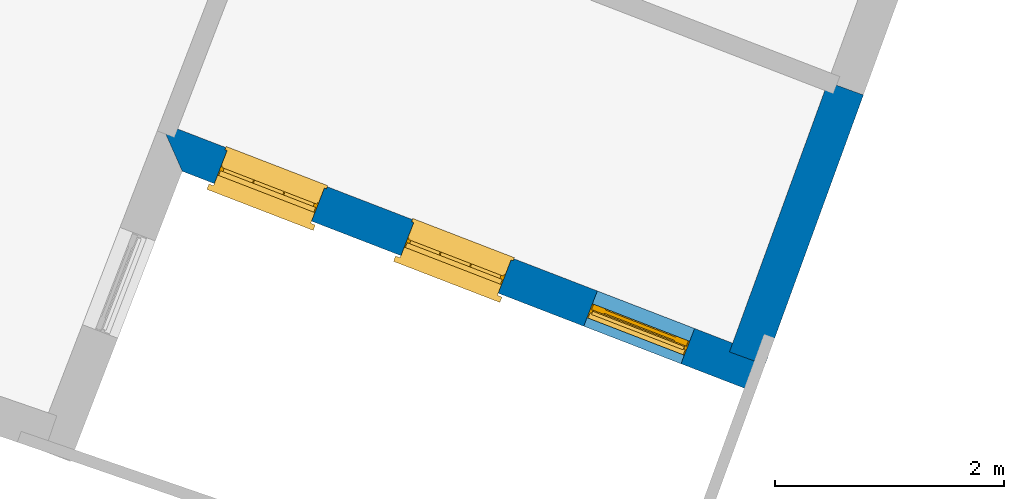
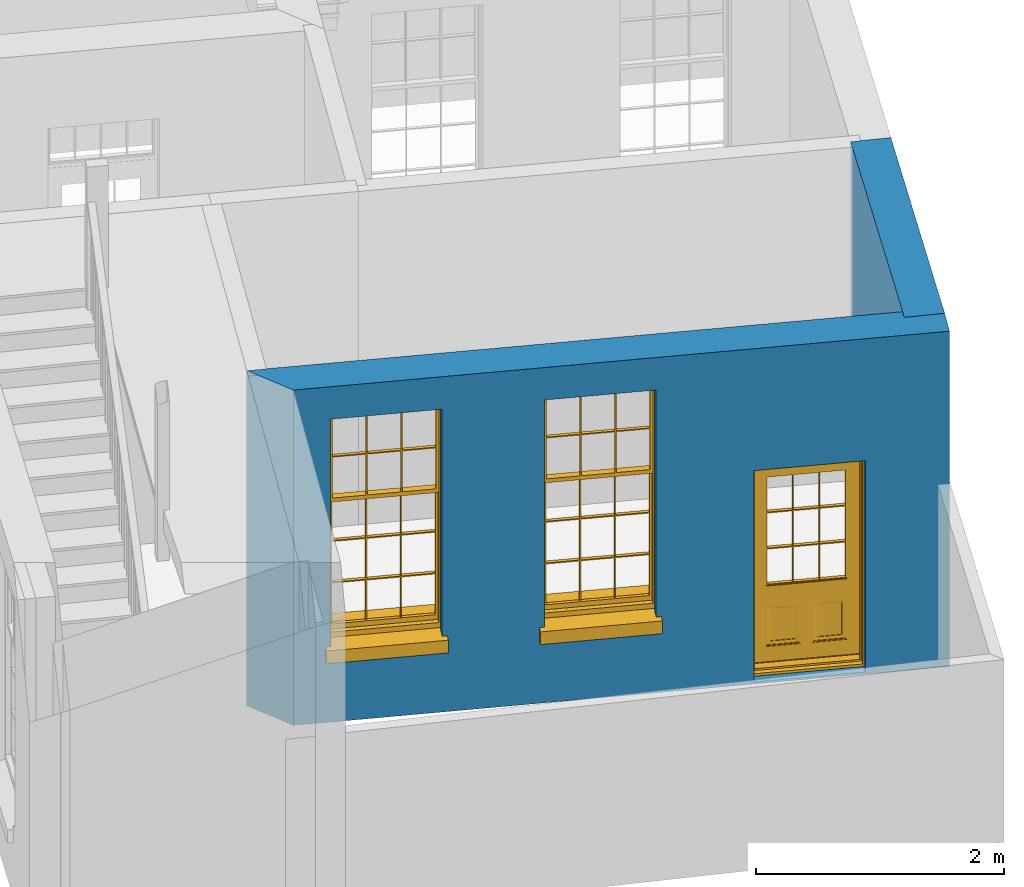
# One storey, part 2 of 6: 2 walls, 2 windows, 1 door, 3 openings.
"""IFC4 building model written with IfcOpenShell, lengths in metres."""

from ifc_helpers import new_model, si_unit, frame, origin, origin_with_axes, place, context, subcontext, project, spatial, polyline, outline, extrude, faceted_brep, source, transform, mapped, material, layer, layer_set, layer_usage, type_object, type_shapes, element, fill, save


model = new_model("IFC4")

# Units and contexts
model_context = context("Model", 3, world=origin_with_axes())
body_context = subcontext(model_context, "Body", "Model", "MODEL_VIEW")
ifc_project = project(units=[si_unit("PLANEANGLEUNIT", "RADIAN"), si_unit("MASSUNIT", "GRAM", prefix="KILO"), si_unit("FORCEUNIT", "NEWTON", prefix="KILO"), si_unit("LENGTHUNIT", "METRE"), si_unit("AREAUNIT", "SQUARE_METRE"), si_unit("VOLUMEUNIT", "CUBIC_METRE")], contexts=[model_context, model_context])

# Sites, building, storey
site_1_placement = place(None, origin_with_axes())
site_1 = spatial("IfcSite", under=ifc_project, at=site_1_placement, Name="Tamar")
site_2_placement = place(site_1_placement, origin_with_axes())
site_2 = spatial("IfcSite", under=site_1, at=site_2_placement, Name="Site plot-11", CompositionType="ELEMENT")
building_placement = place(None, origin_with_axes())
building = spatial("IfcBuilding", under=site_2, at=building_placement, Name="Building plot-11", CompositionType="ELEMENT")
storey_placement = place(None, frame((0.0, 0.0, 26.8), z_axis=(0.0, 0.0, 1.0), x_axis=(1.0, 0.0, 0.0)))
storey = spatial("IfcBuildingStorey", under=building, at=storey_placement, Name="plot-11 0", CompositionType="ELEMENT", Elevation=26.8)

# Wall, openings, windows, door
ifc_material_1 = material(Name="Masonry")
ifc_layer_1 = layer(ifc_material_1, 0.33, ventilated=False)
ifc_layer_set_1 = layer_set([ifc_layer_1], Name="exterior_0.08_0.25")
ifc_layer_usage_1 = layer_usage(ifc_layer_set_1, "AXIS2", "POSITIVE", -0.25)
wall_type_1 = type_object("IfcWallType", Name="exterior_0.08_0.25", PredefinedType="SOLIDWALL", material=ifc_layer_set_1)
wall_1_placement = place(storey_placement, frame((241.432402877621, 311.902585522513, 0.0), z_axis=(0.0, 0.0, 1.0), x_axis=(0.932925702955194, -0.36006892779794, 0.0)))
wall_1 = element("IfcWall", 1, at=wall_1_placement, inside=storey, type_object=wall_type_1, material=ifc_layer_usage_1, Name="exterior", context=body_context, shape_type="SweptSolid", body=[
    extrude(outline(polyline([(-0.0800000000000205, 0.0799999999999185), (0.249999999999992, -0.250000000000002), (5.60336772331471, -0.249999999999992), (5.60336772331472, 0.0799999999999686), (-0.0800000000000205, 0.0799999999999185)])), origin_with_axes(), (0.0, 0.0, 1.0), 3.3),
])
opening_1_placement = place(wall_1_placement, frame((0.549999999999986, 0.0, 0.75)))
opening_1 = element("IfcOpeningElement", 2, at=opening_1_placement, cuts=wall_1, Name="My Opening", ObjectType="Opening", context=body_context, shape_type="SweptSolid", body=[
    extrude(outline(polyline([(0.0, -0.269999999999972), (0.910000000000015, -0.269999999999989), (0.910000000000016, 1.09999999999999), (9.99200722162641e-16, 1.10000000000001), (0.0, -0.269999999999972)])), origin_with_axes(), (0.0, 0.0, 1.0), 2.23),
])
opening_2_placement = place(wall_1_placement, frame((2.2961397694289, 0.0, 0.75)))
opening_2 = element("IfcOpeningElement", 3, at=opening_2_placement, cuts=wall_1, Name="My Opening", ObjectType="Opening", context=body_context, shape_type="SweptSolid", body=[
    extrude(outline(polyline([(0.0, -0.26999999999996), (0.909999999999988, -0.269999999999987), (0.909999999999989, 1.09999999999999), (8.88178419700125e-16, 1.10000000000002), (0.0, -0.26999999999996)])), origin_with_axes(), (0.0, 0.0, 1.0), 2.23),
])
opening_3_placement = place(wall_1_placement, frame((4.0061397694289, 0.0, 0.0199999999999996)))
opening_3 = element("IfcOpeningElement", 4, at=opening_3_placement, cuts=wall_1, Name="My Opening", ObjectType="Opening", context=body_context, shape_type="SweptSolid", body=[
    extrude(outline(polyline([(0.0, -0.269999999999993), (0.909999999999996, -0.269999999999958), (0.909999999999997, 1.10000000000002), (1.77635683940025e-15, 1.09999999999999), (0.0, -0.269999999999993)])), origin_with_axes(), (0.0, 0.0, 1.0), 2.08),
])
window_type = type_object("IfcWindowType", Name="sash_big_taller", PartitioningType="DOUBLE_PANEL_HORIZONTAL", PredefinedType="NOTDEFINED")
shared_shape_1 = source(origin(), body_context, "Body", "Brep", [
    faceted_brep([(0.033125, 0.145, 1.385209), (0.01, 0.145, 1.385209), (0.033125, 0.145, 1.786042), (0.876875, 0.145, 1.385209), (0.876875, 0.145, 1.786042), (0.9, 0.145, 1.385209), (0.876875, 0.145, 1.796042), (0.876875, 0.145, 2.196875), (0.9, 0.145, 2.22), (0.033125, 0.145, 2.196875), (0.033125, 0.145, 1.796042), (0.01, 0.145, 2.22), (0.876875, 0.115, 1.786042), (0.876875, 0.115, 1.385209), (0.9, 0.115, 1.347084), (0.033125, 0.115, 2.196875), (0.01, 0.115, 2.22), (0.033125, 0.115, 1.796042), (0.01, 0.115, 1.347084), (0.033125, 0.115, 1.385209), (0.033125, 0.115, 1.786042), (0.876875, 0.115, 2.196875), (0.876875, 0.115, 1.796042), (0.9, 0.115, 2.22), (0.033125, 0.145, 1.347084), (0.01, 0.145, 1.347084), (0.033125, 0.145, 0.94625), (0.876875, 0.145, 1.347084), (0.876875, 0.145, 0.94625), (0.9, 0.145, 1.347084), (0.876875, 0.145, 0.52625), (0.876875, 0.145, 0.125417), (0.9, 0.145, 0.077167), (0.033125, 0.145, 0.125417), (0.033125, 0.145, 0.52625), (0.01, 0.145, 0.077167), (-0.0425, 0.0, 0.01), (-0.0425, -0.05, 0.001667), (0.0, 0.0, 0.01), (0.9525, 0.0, 0.01), (0.91, 0.0, 0.01), (0.9525, -0.05, 0.001667), (-0.02, 0.33, 0.077167), (0.0, 0.33, 0.077167), (-0.02, 0.36, 0.077167), (0.0, 0.19, 0.077167), (0.01, 0.19, 0.077167), (0.91, 0.19, 0.077167), (0.91, 0.33, 0.077167), (0.9, 0.19, 0.077167), (0.93, 0.33, 0.077167), (0.93, 0.36, 0.077167), (0.01, 0.175, 1.385209), (0.9, 0.175, 1.385209), (0.876875, 0.175, 0.125417), (0.876875, 0.175, 0.52625), (0.9, 0.175, 0.077167), (0.876875, 0.175, 0.94625), (0.876875, 0.175, 1.347084), (0.033125, 0.175, 0.125417), (0.01, 0.175, 0.077167), (0.033125, 0.175, 0.52625), (0.033125, 0.175, 1.347084), (0.033125, 0.175, 0.94625), (-0.02, 0.33, 0.052167), (-0.02, 0.36, 0.052167), (0.93, 0.36, 0.052167), (0.93, 0.33, 0.052167), (0.91, 0.33, 0.052167), (0.0, 0.33, 0.052167), (0.91, 0.1, 0.026667), (0.0, 0.1, 0.026667), (-0.0425, -0.05, -0.123333), (0.9525, -0.05, -0.123333), (-0.0425, 0.0, -0.123333), (0.9525, 0.0, -0.123333), (0.01, 0.19, 2.22), (0.9, 0.19, 2.22), (0.0, 0.19, 2.23), (0.91, 0.19, 2.23), (0.01, 0.1, 0.077167), (0.9, 0.1, 0.077167), (0.592292, 0.145, 0.125417), (0.592292, 0.175, 0.125417), (0.317708, 0.175, 0.125417), (0.317708, 0.145, 0.125417), (0.592292, 0.145, 0.53625), (0.317708, 0.145, 0.53625), (0.317708, 0.145, 0.52625), (0.592292, 0.145, 0.52625), (0.592292, 0.175, 0.53625), (0.317708, 0.175, 0.53625), (0.592292, 0.115, 1.796042), (0.592292, 0.145, 1.796042), (0.317708, 0.145, 1.796042), (0.317708, 0.115, 1.796042), (0.317708, 0.115, 1.786042), (0.592292, 0.115, 1.786042), (0.317708, 0.145, 1.786042), (0.592292, 0.145, 1.786042), (0.602292, 0.115, 1.786042), (0.592292, 0.115, 1.385209), (0.602292, 0.115, 1.385209), (0.602292, 0.145, 1.385209), (0.592292, 0.145, 1.385209), (0.602292, 0.145, 1.786042), (0.876875, 0.145, 0.53625), (0.876875, 0.175, 0.53625), (0.602292, 0.175, 0.53625), (0.602292, 0.145, 0.53625), (0.317708, 0.175, 0.52625), (0.307708, 0.175, 0.125417), (0.307708, 0.175, 0.52625), (0.602292, 0.175, 0.52625), (0.602292, 0.175, 0.125417), (0.592292, 0.175, 0.52625), (0.307708, 0.175, 0.53625), (0.033125, 0.175, 0.53625), (0.317708, 0.175, 1.347084), (0.317708, 0.175, 0.94625), (0.307708, 0.175, 0.94625), (0.307708, 0.175, 1.347084), (0.602292, 0.175, 1.347084), (0.602292, 0.175, 0.94625), (0.592292, 0.175, 0.94625), (0.592292, 0.175, 1.347084), (0.307708, 0.145, 0.52625), (0.307708, 0.145, 0.125417), (0.307708, 0.145, 0.53625), (0.033125, 0.145, 0.53625), (0.307708, 0.145, 1.347084), (0.307708, 0.145, 0.94625), (0.592292, 0.145, 1.347084), (0.592292, 0.145, 0.94625), (0.317708, 0.145, 0.94625), (0.317708, 0.145, 1.347084), (0.602292, 0.145, 0.94625), (0.602292, 0.145, 1.347084), (0.602292, 0.145, 0.52625), (0.602292, 0.145, 0.125417), (0.307708, 0.115, 1.796042), (0.307708, 0.115, 1.786042), (0.307708, 0.115, 1.385209), (0.317708, 0.115, 1.385209), (0.317708, 0.115, 2.196875), (0.307708, 0.115, 2.196875), (0.602292, 0.115, 2.196875), (0.592292, 0.115, 2.196875), (0.602292, 0.115, 1.796042), (0.602292, 0.145, 1.796042), (0.307708, 0.145, 1.796042), (0.307708, 0.145, 2.196875), (0.317708, 0.145, 2.196875), (0.592292, 0.145, 2.196875), (0.602292, 0.145, 2.196875), (0.307708, 0.145, 1.786042), (0.317708, 0.145, 1.385209), (0.307708, 0.145, 1.385209), (0.876875, 0.175, 0.93625), (0.033125, 0.175, 0.93625), (0.033125, 0.145, 0.93625), (0.876875, 0.145, 0.93625), (0.91, 0.1, 2.23), (0.9, 0.1, 2.22), (0.01, 0.1, 2.22), (0.0, 0.1, 2.23), (0.91, 0.0, 0.0), (0.0, 0.0, 0.0), (0.91, 0.33, 0.0), (0.0, 0.33, 0.0), (0.317708, 0.145, 0.93625), (0.592292, 0.145, 0.93625), (0.317708, 0.175, 0.93625), (0.307708, 0.175, 0.93625), (0.602292, 0.175, 0.93625), (0.592292, 0.175, 0.93625), (0.307708, 0.145, 0.93625), (0.602292, 0.145, 0.93625)], [[[0, 1, 2]], [[3, 4, 5]], [[6, 7, 8]], [[9, 10, 11]], [[12, 13, 14]], [[15, 16, 17]], [[18, 19, 20]], [[21, 22, 23]], [[24, 25, 26]], [[27, 28, 29]], [[30, 31, 32]], [[33, 34, 35]], [[14, 27, 29]], [[25, 24, 18]], [[36, 37, 38]], [[39, 40, 41]], [[42, 43, 44]], [[45, 46, 43]], [[47, 48, 49]], [[50, 51, 48]], [[1, 0, 52]], [[5, 53, 3]], [[54, 55, 56]], [[57, 58, 53]], [[59, 60, 61]], [[62, 63, 52]], [[48, 43, 46, 49]], [[51, 44, 43, 48]], [[64, 42, 44, 65]], [[65, 44, 51, 66]], [[66, 51, 50, 67]], [[65, 66, 68, 69]], [[60, 56, 49, 46]], [[70, 71, 38, 40]], [[37, 41, 40, 38]], [[37, 72, 73, 41]], [[74, 75, 73, 72]], [[8, 11, 76, 77]], [[76, 78, 79, 77]], [[32, 35, 80, 81]], [[81, 80, 71, 70]], [[82, 83, 84, 85]], [[86, 87, 88, 89]], [[86, 90, 91, 87]], [[92, 93, 94, 95]], [[92, 95, 96, 97]], [[96, 98, 99, 97]], [[100, 97, 101, 102]], [[103, 104, 99, 105]], [[97, 99, 104, 101]], [[102, 103, 105, 100]], [[106, 107, 108, 109]], [[110, 84, 111, 112]], [[113, 114, 83, 115]], [[116, 112, 61, 117]], [[90, 115, 110, 91]], [[118, 119, 120, 121]], [[122, 123, 124, 125]], [[113, 108, 107, 55]], [[126, 112, 111, 127]], [[34, 61, 112, 126]], [[89, 115, 83, 82]], [[88, 110, 115, 89]], [[85, 84, 110, 88]], [[128, 116, 117, 129]], [[130, 121, 120, 131]], [[132, 125, 124, 133]], [[134, 119, 118, 135]], [[136, 123, 122, 137]], [[138, 113, 55, 30]], [[139, 114, 113, 138]], [[138, 30, 106, 109]], [[88, 126, 127, 85]], [[138, 89, 82, 139]], [[137, 132, 133, 136]], [[128, 129, 34, 126]], [[135, 130, 131, 134]], [[140, 17, 20, 141]], [[96, 141, 142, 143]], [[144, 145, 140, 95]], [[146, 147, 92, 148]], [[100, 12, 22, 148]], [[149, 6, 4, 105]], [[94, 150, 151, 152]], [[149, 93, 153, 154]], [[99, 98, 94, 93]], [[155, 2, 10, 150]], [[156, 157, 155, 98]], [[141, 155, 157, 142]], [[20, 2, 155, 141]], [[143, 156, 98, 96]], [[140, 150, 10, 17]], [[145, 151, 150, 140]], [[147, 153, 93, 92]], [[95, 94, 152, 144]], [[22, 6, 149, 148]], [[148, 149, 154, 146]], [[100, 105, 4, 12]], [[109, 86, 89, 138]], [[108, 113, 115, 90]], [[91, 110, 112, 116]], [[87, 128, 126, 88]], [[97, 100, 148, 92]], [[141, 96, 95, 140]], [[98, 155, 150, 94]], [[105, 99, 93, 149]], [[143, 101, 104, 156]], [[135, 118, 125, 132]], [[144, 152, 153, 147]], [[127, 111, 59, 33]], [[15, 9, 151, 145]], [[146, 154, 7, 21]], [[31, 54, 114, 139]], [[36, 74, 72, 37]], [[39, 41, 73, 75]], [[18, 14, 101, 143]], [[23, 16, 144, 147]], [[83, 56, 60, 84]], [[52, 53, 125, 118]], [[53, 52, 156, 104]], [[11, 8, 153, 152]], [[14, 18, 135, 132]], [[2, 1, 11, 10]], [[8, 5, 4, 6]], [[57, 53, 56, 158]], [[60, 52, 63, 159]], [[26, 25, 35, 160]], [[32, 29, 28, 161]], [[14, 23, 22, 12]], [[18, 20, 17, 16]], [[19, 0, 2, 20]], [[17, 10, 9, 15]], [[12, 4, 3, 13]], [[21, 7, 6, 22]], [[27, 58, 57, 28]], [[30, 55, 54, 31]], [[33, 59, 61, 34]], [[26, 63, 62, 24]], [[5, 8, 77, 53]], [[76, 11, 1, 52]], [[46, 45, 78, 76]], [[49, 77, 79, 47]], [[70, 162, 163, 81]], [[71, 80, 164, 165]], [[19, 142, 157, 0]], [[102, 13, 3, 103]], [[121, 130, 24, 62]], [[29, 32, 81, 14]], [[80, 35, 25, 18]], [[60, 46, 76, 52]], [[77, 49, 56, 53]], [[23, 14, 81, 163]], [[16, 164, 80, 18]], [[35, 85, 127]], [[127, 33, 35]], [[139, 82, 32]], [[32, 31, 139]], [[32, 82, 85, 35]], [[102, 101, 14]], [[14, 13, 102]], [[18, 143, 142]], [[142, 19, 18]], [[146, 21, 23]], [[23, 147, 146]], [[16, 15, 145]], [[145, 144, 16]], [[11, 152, 151]], [[151, 9, 11]], [[154, 153, 8]], [[8, 7, 154]], [[23, 163, 164, 16]], [[162, 165, 164, 163]], [[52, 118, 121]], [[121, 62, 52]], [[125, 53, 122]], [[58, 122, 53]], [[27, 137, 122, 58]], [[56, 83, 114]], [[114, 54, 56]], [[111, 84, 60]], [[60, 59, 111]], [[137, 27, 14]], [[14, 132, 137]], [[130, 135, 18]], [[18, 24, 130]], [[157, 156, 52]], [[52, 0, 157]], [[103, 3, 53]], [[53, 104, 103]], [[79, 78, 165, 162]], [[78, 45, 71, 165]], [[162, 70, 47, 79]], [[166, 75, 74, 167]], [[68, 66, 67]], [[48, 68, 67, 50]], [[69, 64, 65]], [[42, 64, 69, 43]], [[69, 68, 168, 169]], [[70, 68, 48, 47]], [[166, 168, 68, 70]], [[43, 69, 71, 45]], [[69, 169, 167, 71]], [[168, 166, 167, 169]], [[38, 167, 74, 36]], [[71, 167, 38]], [[39, 75, 166, 40]], [[40, 166, 70]], [[133, 134, 170, 171]], [[133, 124, 119, 134]], [[28, 57, 123, 136]], [[172, 91, 116, 173]], [[174, 108, 90, 175]], [[120, 173, 159, 63]], [[124, 175, 172, 119]], [[174, 123, 57, 158]], [[176, 173, 116, 128]], [[160, 159, 173, 176]], [[171, 175, 90, 86]], [[170, 172, 175, 171]], [[87, 91, 172, 170]], [[131, 120, 63, 26]], [[177, 174, 158, 161]], [[109, 108, 174, 177]], [[177, 161, 28, 136]], [[170, 176, 128, 87]], [[177, 171, 86, 109]], [[131, 26, 160, 176]], [[136, 133, 171, 177]], [[123, 174, 175, 124]], [[119, 172, 173, 120]], [[134, 131, 176, 170]], [[129, 117, 159, 160]], [[161, 158, 107, 106]], [[35, 34, 129]], [[35, 129, 160]], [[32, 106, 30]], [[32, 161, 106]], [[56, 55, 107]], [[56, 107, 158]], [[60, 117, 61]], [[60, 159, 117]]]),
])
type_shapes(window_type, [shared_shape_1])
window_1_placement = place(storey_placement, frame((241.848293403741, 311.452657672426, 0.75), z_axis=(0.0, 0.0, 1.0), x_axis=(0.848962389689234, -0.327662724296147, 0.0)))
window_1 = element("IfcWindow", 5, at=window_1_placement, inside=storey, type_object=window_type, Name="bedroom outside window", OverallHeight=2.23, OverallWidth=0.91, context=body_context, shape_type="MappedRepresentation", body=[
    mapped(shared_shape_1, transform((0.0, 0.0, 0.0), scale=1.0)),
])
fill(opening_1, window_1)
window_2_placement = place(storey_placement, frame((243.477312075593, 310.823926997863, 0.75), z_axis=(0.0, 0.0, 1.0), x_axis=(0.848962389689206, -0.327662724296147, 0.0)))
window_2 = element("IfcWindow", 6, at=window_2_placement, inside=storey, type_object=window_type, Name="bedroom outside window", OverallHeight=2.23, OverallWidth=0.91, context=body_context, shape_type="MappedRepresentation", body=[
    mapped(shared_shape_1, transform((0.0, 0.0, 0.0), scale=1.0)),
])
fill(opening_2, window_2)
door_type = type_object("IfcDoorType", Name="door_panelled", OperationType="SINGLE_SWING_LEFT", PredefinedType="NOTDEFINED")
shared_shape_2 = source(origin(), body_context, "Body", "Brep", [
    faceted_brep([(0.545, 0.195, 0.265), (0.745, 0.195, 0.265), (0.745, 0.2, 0.265), (0.545, 0.2, 0.265), (0.745, 0.2, 0.58), (0.545, 0.2, 0.58), (0.545, 0.195, 0.58), (0.515, 0.19, 0.235), (0.775, 0.19, 0.235), (0.745, 0.195, 0.58), (0.515, 0.19, 0.61), (0.515, 0.185, 0.235), (0.775, 0.185, 0.235), (0.775, 0.19, 0.61), (0.515, 0.185, 0.61), (0.785, 0.185, 0.225), (0.505, 0.185, 0.225), (0.775, 0.185, 0.61), (0.505, 0.185, 0.62), (0.785, 0.185, 0.62), (0.505, 0.18, 0.225), (0.785, 0.18, 0.225), (0.505, 0.18, 0.62), (0.785, 0.18, 0.62), (0.883, 0.18, 0.075), (0.898, 0.18, 0.075), (0.405, 0.18, 0.62), (0.405, 0.18, 0.225), (0.027, 0.18, 0.075), (0.785, 0.18, 0.82), (0.125, 0.18, 0.82), (0.405, 0.185, 0.62), (0.405, 0.185, 0.225), (0.898, 0.18, 2.068), (0.027, 0.17, 0.075), (0.883, 0.17, 0.075), (0.125, 0.18, 0.225), (0.012, 0.18, 0.075), (0.785, 0.19, 0.82), (0.125, 0.19, 0.82), (0.125, 0.18, 0.62), (0.125, 0.185, 0.62), (0.395, 0.185, 0.61), (0.395, 0.185, 0.235), (0.125, 0.185, 0.225), (0.785, 0.18, 1.895), (0.027, 0.14, 0.045), (0.883, 0.14, 0.045), (0.558333, 0.19, 0.83), (0.351667, 0.19, 0.83), (0.125, 0.18, 1.895), (0.125, 0.19, 1.895), (0.785, 0.19, 1.895), (0.012, 0.18, 2.068), (0.135, 0.185, 0.61), (0.395, 0.19, 0.61), (0.395, 0.19, 0.235), (0.135, 0.185, 0.235), (0.027, 0.14, 0.027), (0.883, 0.14, 0.027), (0.568333, 0.19, 0.83), (0.558333, 0.22, 0.83), (0.351667, 0.22, 0.83), (0.341667, 0.19, 0.83), (0.135, 0.19, 1.185), (0.135, 0.19, 1.53), (0.775, 0.19, 1.53), (0.775, 0.19, 1.185), (0.135, 0.19, 0.61), (0.365, 0.195, 0.58), (0.365, 0.195, 0.265), (0.135, 0.19, 0.235), (0.568333, 0.19, 1.175), (0.558333, 0.19, 1.175), (0.775, 0.19, 0.83), (0.558333, 0.22, 1.175), (0.785, 0.22, 0.82), (0.125, 0.22, 0.82), (0.351667, 0.22, 1.175), (0.351667, 0.19, 1.175), (0.341667, 0.19, 1.175), (0.135, 0.19, 0.83), (0.135, 0.19, 1.175), (0.135, 0.22, 1.185), (0.135, 0.22, 1.53), (0.135, 0.19, 1.54), (0.351667, 0.19, 1.885), (0.558333, 0.19, 1.885), (0.775, 0.22, 1.53), (0.775, 0.22, 1.185), (0.775, 0.19, 1.175), (0.775, 0.19, 1.54), (0.165, 0.195, 0.58), (0.365, 0.2, 0.58), (0.365, 0.2, 0.265), (0.165, 0.195, 0.265), (0.568333, 0.22, 0.83), (0.568333, 0.22, 1.175), (0.568333, 0.19, 1.185), (0.558333, 0.19, 1.185), (0.775, 0.22, 0.83), (0.785, 0.23, 0.82), (0.125, 0.23, 0.82), (0.341667, 0.22, 0.83), (0.341667, 0.22, 1.175), (0.351667, 0.19, 1.185), (0.341667, 0.19, 1.185), (0.135, 0.22, 0.83), (0.341667, 0.22, 1.185), (0.125, 0.22, 1.895), (0.341667, 0.22, 1.53), (0.341667, 0.19, 1.53), (0.135, 0.19, 1.885), (0.341667, 0.19, 1.54), (0.341667, 0.19, 1.885), (0.558333, 0.22, 1.885), (0.351667, 0.22, 1.885), (0.568333, 0.19, 1.885), (0.785, 0.22, 1.895), (0.568333, 0.22, 1.185), (0.568333, 0.19, 1.53), (0.568333, 0.22, 1.53), (0.568333, 0.19, 1.54), (0.775, 0.19, 1.885), (0.165, 0.2, 0.58), (0.165, 0.2, 0.265), (0.775, 0.22, 1.175), (0.558333, 0.19, 1.53), (0.351667, 0.22, 1.185), (0.558333, 0.22, 1.185), (0.505, 0.23, 0.62), (0.405, 0.23, 0.62), (0.125, 0.23, 1.895), (0.785, 0.23, 1.895), (0.351667, 0.19, 1.53), (0.135, 0.22, 1.175), (0.135, 0.22, 1.54), (0.341667, 0.22, 1.54), (0.135, 0.22, 1.885), (0.351667, 0.19, 1.54), (0.558333, 0.22, 1.54), (0.558333, 0.19, 1.54), (0.351667, 0.22, 1.54), (0.775, 0.22, 1.54), (0.568333, 0.22, 1.54), (0.775, 0.22, 1.885), (0.558333, 0.22, 1.53), (0.405, 0.23, 0.225), (0.505, 0.23, 0.225), (0.125, 0.23, 0.62), (0.785, 0.23, 0.62), (0.012, 0.23, 2.068), (0.898, 0.23, 2.068), (0.351667, 0.22, 1.53), (0.341667, 0.22, 1.885), (0.568333, 0.22, 1.885), (0.405, 0.225, 0.225), (0.405, 0.225, 0.62), (0.505, 0.225, 0.62), (0.505, 0.225, 0.225), (0.898, 0.23, 0.027), (0.012, 0.23, 0.027), (0.125, 0.225, 0.62), (0.785, 0.225, 0.62), (0.395, 0.225, 0.235), (0.395, 0.225, 0.61), (0.125, 0.23, 0.225), (0.125, 0.225, 0.225), (0.515, 0.225, 0.61), (0.515, 0.225, 0.235), (0.785, 0.23, 0.225), (0.785, 0.225, 0.225), (0.135, 0.225, 0.61), (0.775, 0.225, 0.61), (0.135, 0.225, 0.235), (0.395, 0.22, 0.235), (0.395, 0.22, 0.61), (0.515, 0.22, 0.61), (0.515, 0.22, 0.235), (0.775, 0.225, 0.235), (0.135, 0.22, 0.61), (0.775, 0.22, 0.61), (0.135, 0.22, 0.235), (0.365, 0.215, 0.265), (0.365, 0.215, 0.58), (0.545, 0.215, 0.58), (0.545, 0.215, 0.265), (0.775, 0.22, 0.235), (0.165, 0.215, 0.58), (0.745, 0.215, 0.58), (0.165, 0.215, 0.265), (0.365, 0.21, 0.58), (0.365, 0.21, 0.265), (0.545, 0.21, 0.58), (0.545, 0.21, 0.265), (0.745, 0.215, 0.265), (0.165, 0.21, 0.58), (0.745, 0.21, 0.58), (0.165, 0.21, 0.265), (0.745, 0.21, 0.265), (0.885, 0.178, 0.025), (0.025, 0.178, 0.025), (0.025, 0.15, 0.025), (0.885, 0.15, 0.025), (0.9, 0.23, 0.025), (0.01, 0.23, 0.025), (0.9, 0.178, 0.025), (0.91, 0.23, 0.0), (0.0, 0.23, 0.0), (0.01, 0.178, 0.025), (0.9, 0.178, 2.07), (0.9, 0.23, 2.07), (0.885, 0.178, 2.055), (0.91, 0.23, 2.08), (0.01, 0.23, 2.07), (0.0, 0.23, 2.08), (0.01, 0.178, 2.07), (0.025, 0.178, 2.055), (0.0, 0.1, 2.08), (0.91, 0.1, 2.08), (0.01, 0.1, 2.07), (0.9, 0.1, 2.07), (0.01, 0.15, 2.07), (0.9, 0.15, 2.07), (0.0, 0.1, 0.0), (0.91, 0.1, 0.0), (0.01, 0.1, 0.025), (0.9, 0.1, 0.025), (0.01, 0.15, 0.025), (0.025, 0.15, 2.055), (0.9, 0.15, 0.025), (0.885, 0.15, 2.055), (0.898, 0.18, 0.027), (0.012, 0.18, 0.027), (0.883, 0.18, 0.027), (0.027, 0.18, 0.027)], [[[0, 1, 2, 3]], [[2, 4, 5, 3]], [[0, 3, 5, 6]], [[1, 0, 7, 8]], [[9, 4, 2, 1]], [[9, 6, 5, 4]], [[0, 6, 10, 7]], [[8, 7, 11, 12]], [[8, 13, 9, 1]], [[13, 10, 6, 9]], [[7, 10, 14, 11]], [[15, 12, 11, 16]], [[12, 17, 13, 8]], [[17, 14, 10, 13]], [[18, 16, 11, 14]], [[15, 19, 17, 12]], [[15, 16, 20, 21]], [[14, 17, 19, 18]], [[16, 18, 22, 20]], [[21, 23, 19, 15]], [[24, 25, 21, 20]], [[23, 22, 18, 19]], [[20, 22, 26, 27]], [[23, 21, 25]], [[28, 24, 20, 27]], [[22, 23, 29]], [[29, 30, 26, 22]], [[27, 26, 31, 32]], [[23, 25, 33, 29]], [[34, 35, 24, 28]], [[28, 27, 36, 37]], [[38, 39, 30, 29]], [[26, 30, 40]], [[26, 40, 41, 31]], [[42, 43, 32, 31]], [[32, 44, 36, 27]], [[33, 45, 29]], [[46, 47, 35, 34]], [[36, 40, 37]], [[39, 38, 48, 49]], [[50, 30, 39, 51]], [[29, 45, 52, 38]], [[53, 37, 40, 30]], [[44, 41, 40, 36]], [[31, 41, 54, 42]], [[43, 42, 55, 56]], [[57, 44, 32, 43]], [[50, 45, 33, 53]], [[47, 46, 58, 59]], [[60, 48, 38]], [[49, 48, 61, 62]], [[49, 63, 39]], [[50, 53, 30]], [[51, 39, 64, 65]], [[45, 50, 51, 52]], [[66, 67, 38, 52]], [[57, 54, 41, 44]], [[42, 54, 68, 55]], [[56, 55, 69, 70]], [[56, 71, 57, 43]], [[60, 72, 73, 48]], [[60, 38, 74]], [[48, 73, 75, 61]], [[76, 77, 62, 61]], [[62, 78, 79, 49]], [[49, 79, 80, 63]], [[63, 81, 39]], [[82, 64, 39]], [[65, 64, 83, 84]], [[85, 51, 65]], [[52, 51, 86, 87]], [[88, 89, 67, 66]], [[90, 38, 67]], [[91, 66, 52]], [[71, 68, 54, 57]], [[55, 68, 92, 69]], [[69, 93, 94, 70]], [[70, 95, 71, 56]], [[96, 97, 72, 60]], [[73, 72, 98, 99]], [[74, 38, 90]], [[100, 96, 60, 74]], [[75, 73, 79, 78]], [[61, 75, 97, 96]], [[101, 102, 77, 76]], [[77, 103, 62]], [[96, 76, 61]], [[103, 104, 78, 62]], [[80, 79, 105, 106]], [[63, 80, 104, 103]], [[81, 63, 103, 107]], [[81, 82, 39]], [[106, 64, 82, 80]], [[106, 108, 83, 64]], [[84, 83, 77, 109]], [[110, 111, 65, 84]], [[112, 51, 85]], [[113, 85, 65, 111]], [[114, 86, 51]], [[115, 87, 86, 116]], [[117, 52, 87]], [[118, 76, 89, 88]], [[119, 98, 67, 89]], [[120, 121, 88, 66]], [[67, 98, 72, 90]], [[91, 122, 120, 66]], [[91, 52, 123]], [[95, 92, 68, 71]], [[69, 92, 124, 93]], [[94, 93, 124, 125]], [[94, 125, 95, 70]], [[72, 97, 126, 90]], [[127, 99, 98, 120]], [[99, 105, 79, 73]], [[74, 90, 126, 100]], [[96, 100, 76]], [[128, 129, 75, 78]], [[97, 75, 129, 119]], [[130, 131, 102, 101]], [[109, 77, 102, 132]], [[133, 101, 76, 118]], [[77, 107, 103]], [[78, 104, 108, 128]], [[111, 106, 105, 134]], [[104, 80, 82, 135]], [[107, 135, 82, 81]], [[110, 108, 106, 111]], [[104, 135, 83, 108]], [[83, 135, 77]], [[136, 84, 109]], [[110, 84, 136, 137]], [[114, 51, 112]], [[85, 136, 138, 112]], [[113, 137, 136, 85]], [[111, 134, 139, 113]], [[86, 114, 113, 139]], [[140, 141, 87, 115]], [[139, 142, 116, 86]], [[109, 118, 115, 116]], [[117, 123, 52]], [[117, 87, 141, 122]], [[126, 89, 76]], [[143, 118, 88]], [[120, 98, 119, 121]], [[119, 89, 126, 97]], [[144, 143, 88, 121]], [[144, 122, 91, 143]], [[127, 120, 122, 141]], [[143, 91, 123, 145]], [[124, 92, 95, 125]], [[146, 129, 99, 127]], [[99, 129, 128, 105]], [[100, 126, 76]], [[121, 119, 129, 146]], [[147, 131, 130, 148]], [[131, 149, 102]], [[130, 101, 150]], [[102, 151, 132]], [[118, 109, 132, 133]], [[101, 133, 152]], [[107, 77, 135]], [[153, 128, 108, 110]], [[134, 105, 128, 153]], [[109, 138, 136]], [[153, 110, 137, 142]], [[154, 114, 112, 138]], [[137, 113, 114, 154]], [[141, 139, 134, 127]], [[141, 140, 142, 139]], [[144, 140, 115, 155]], [[142, 137, 154, 116]], [[155, 115, 118]], [[116, 154, 109]], [[117, 155, 145, 123]], [[122, 144, 155, 117]], [[143, 145, 118]], [[121, 146, 140, 144]], [[146, 127, 134, 153]], [[156, 157, 131, 147]], [[148, 130, 158, 159]], [[148, 160, 161, 147]], [[157, 162, 149, 131]], [[161, 151, 102, 149]], [[101, 152, 160, 150]], [[163, 158, 130, 150]], [[151, 152, 133, 132]], [[154, 138, 109]], [[142, 140, 146, 153]], [[145, 155, 118]], [[157, 156, 164, 165]], [[147, 166, 167, 156]], [[168, 169, 159, 158]], [[170, 148, 159, 171]], [[148, 170, 160]], [[166, 147, 161]], [[172, 162, 157, 165]], [[166, 149, 162, 167]], [[166, 161, 149]], [[150, 160, 170]], [[163, 173, 168, 158]], [[171, 163, 150, 170]], [[174, 164, 156, 167]], [[175, 176, 165, 164]], [[169, 168, 177, 178]], [[171, 159, 169, 179]], [[167, 162, 172, 174]], [[176, 180, 172, 165]], [[179, 173, 163, 171]], [[181, 177, 168, 173]], [[164, 174, 182, 175]], [[183, 184, 176, 175]], [[178, 177, 185, 186]], [[179, 169, 178, 187]], [[174, 172, 180, 182]], [[184, 188, 180, 176]], [[187, 181, 173, 179]], [[189, 185, 177, 181]], [[175, 182, 190, 183]], [[191, 184, 183, 192]], [[185, 193, 194, 186]], [[187, 178, 186, 195]], [[182, 180, 188, 190]], [[191, 196, 188, 184]], [[195, 189, 181, 187]], [[197, 193, 185, 189]], [[183, 190, 198, 192]], [[198, 196, 191, 192]], [[194, 193, 197, 199]], [[195, 186, 194, 199]], [[188, 196, 198, 190]], [[197, 189, 195, 199]], [[200, 201, 202, 203]], [[201, 200, 204, 205]], [[206, 204, 200]], [[204, 207, 208, 205]], [[209, 201, 205]], [[210, 211, 204, 206]], [[206, 200, 212, 210]], [[211, 213, 207, 204]], [[214, 205, 208, 215]], [[216, 217, 201, 209]], [[205, 214, 216, 209]], [[216, 214, 211, 210]], [[210, 212, 217, 216]], [[214, 215, 213, 211]], [[218, 219, 213, 215]], [[219, 218, 220, 221]], [[221, 220, 222, 223]], [[215, 208, 224, 218]], [[225, 224, 208, 207]], [[224, 226, 220, 218]], [[224, 225, 227, 226]], [[219, 225, 207, 213]], [[228, 222, 220, 226]], [[219, 221, 227, 225]], [[226, 227, 203, 202]], [[202, 229, 222, 228]], [[228, 226, 202]], [[227, 221, 223, 230]], [[230, 203, 227]], [[217, 229, 202, 201]], [[231, 223, 222, 229]], [[230, 223, 231, 203]], [[231, 229, 217, 212]], [[212, 200, 203, 231]], [[33, 152, 151, 53]], [[25, 160, 152, 33]], [[161, 37, 53, 151]], [[232, 160, 25]], [[161, 233, 37]], [[160, 232, 234]], [[24, 234, 232, 25]], [[233, 161, 235]], [[37, 233, 235, 28]], [[161, 160, 234, 235]], [[35, 47, 234, 24]], [[28, 235, 46, 34]], [[58, 235, 234, 59]], [[59, 234, 47]], [[58, 46, 235]]]),
])
type_shapes(door_type, [shared_shape_2])
door_placement = place(storey_placement, frame((245.072615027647, 310.208209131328, 0.0199999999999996), z_axis=(0.0, 0.0, 1.0), x_axis=(0.848962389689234, -0.32766272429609, 0.0)))
door = element("IfcDoor", 7, at=door_placement, inside=storey, type_object=door_type, Name="bedroom outside door", OverallHeight=2.08, OverallWidth=0.91, context=body_context, shape_type="MappedRepresentation", body=[
    mapped(shared_shape_2, transform((0.0, 0.0, 0.0), scale=1.0)),
])
fill(opening_3, door)

# Wall
ifc_material_2 = material(Name="Masonry")
ifc_layer_2 = layer(ifc_material_2, 0.33, ventilated=False)
ifc_layer_set_2 = layer_set([ifc_layer_2], Name="party_0.08_0.25")
ifc_layer_usage_2 = layer_usage(ifc_layer_set_2, "AXIS2", "POSITIVE", -0.25)
wall_type_2 = type_object("IfcWallType", Name="party_0.08_0.25", PredefinedType="SOLIDWALL", material=ifc_layer_set_2)
wall_2_placement = place(storey_placement, frame((246.426697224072, 309.975004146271, 0.0), z_axis=(0.0, 0.0, 1.0), x_axis=(0.342734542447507, 0.939432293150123, 0.0)))
element("IfcWall", 8, at=wall_2_placement, inside=storey, type_object=wall_type_2, material=ifc_layer_usage_2, Name="party", context=body_context, shape_type="SweptSolid", body=[
    extrude(outline(polyline([(1.05209310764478e-14, 0.0800000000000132), (7.78686925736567e-15, -0.250000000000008), (2.50759775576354, -0.250000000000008), (2.50759775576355, 0.0800000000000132), (1.05209310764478e-14, 0.0800000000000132)])), origin_with_axes(), (0.0, 0.0, 1.0), 3.3),
])

save(model, "model.ifc")
